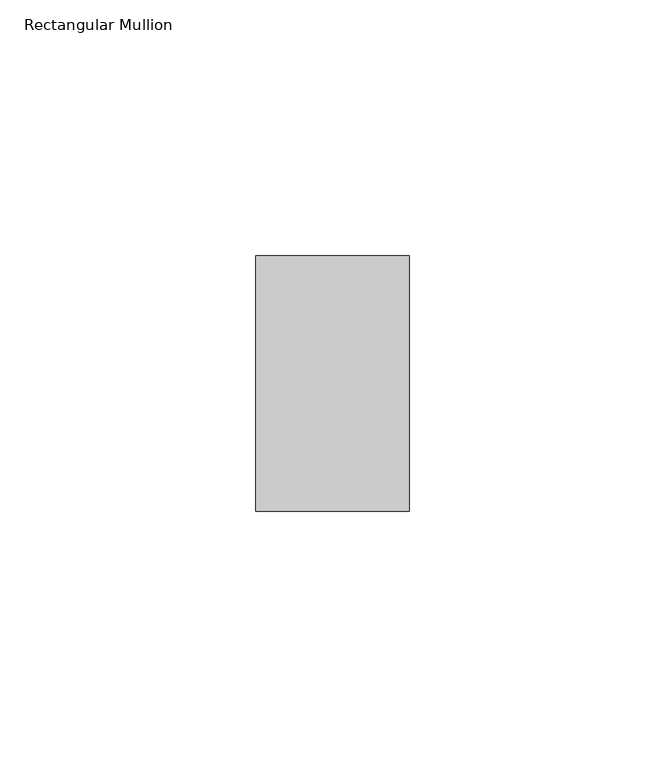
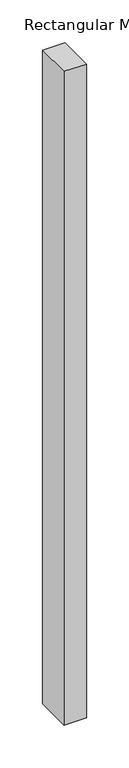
"""IFC4 building model written with IfcOpenShell, lengths in millimetres: member geometry, Rectangular Mullion : ARQ_TV_MULL_50x30mm."""

import ifcopenshell
import ifcopenshell.guid

model = None  # the IFC model being written
_history = None  # IfcOwnerHistory: only IFC2X3 demands one
_inside = {}  # id of a spatial element -> (the spatial element, [elements in it])
_under = {}  # id of a project, library or spatial element -> (it, [spatial elements below it])
_declared = {}  # id of a project -> (the project, [libraries it declares])
_typed = {}  # id of a type object -> (the type object, [elements of that type])
_made_of = {}  # id of a material, layer set ... -> (it, [elements and type objects made of it])


def new_model(schema):
    """Start an empty IFC model of exactly this schema.

    Asked for "IFC4X3", IfcOpenShell would pick the latest addendum, in which some entities
    have other attributes; the version numbers below select the first issue.
    IFC2X3 requires an IfcOwnerHistory on every rooted entity: one is made here for all.
    """
    global model, _history
    if schema == "IFC4X3":
        model = ifcopenshell.file(schema_version=(4, 3, 0, 0))
    else:
        model = ifcopenshell.file(schema=schema)
    _inside.clear()
    _under.clear()
    _declared.clear()
    _typed.clear()
    _made_of.clear()
    _history = None
    if model.schema == "IFC2X3":
        org = make("IfcOrganization", Name="unknown")
        user = make(
            "IfcPersonAndOrganization",
            ThePerson=make("IfcPerson", FamilyName="unknown"),
            TheOrganization=org,
        )
        app = make(
            "IfcApplication",
            ApplicationDeveloper=org,
            Version="unknown",
            ApplicationFullName="unknown",
            ApplicationIdentifier="unknown",
        )
        _history = make(
            "IfcOwnerHistory",
            OwningUser=user,
            OwningApplication=app,
            ChangeAction="ADDED",
            CreationDate=0,
        )
    return model


def make(cls, **values):
    """One entity of the class cls with the attributes given. An attribute that is None is left unset."""
    return model.create_entity(
        cls, **{name: value for name, value in values.items() if value is not None}
    )


def rooted(cls, **values):
    """An entity with a GlobalId (a new one), such as an element, a storey or a relation."""
    return make(cls, GlobalId=ifcopenshell.guid.new(), OwnerHistory=_history, **values)


def si_unit(unit_type, name, prefix=None):
    """IfcSIUnit, for example si_unit("LENGTHUNIT", "METRE", prefix="MILLI")."""
    return make("IfcSIUnit", UnitType=unit_type, Prefix=prefix, Name=name)


def assignment(units):
    """IfcUnitAssignment: the units of a project."""
    return None if units is None else make("IfcUnitAssignment", Units=units)


def point(xyz):
    """IfcCartesianPoint."""
    return None if xyz is None else make("IfcCartesianPoint", Coordinates=xyz)


def direction(xyz):
    """IfcDirection."""
    return None if xyz is None else make("IfcDirection", DirectionRatios=xyz)


def frame(location, z_axis=None, x_axis=None):
    """IfcAxis2Placement3D, a coordinate frame: its origin and axes. An axis left out is left unset."""
    return make(
        "IfcAxis2Placement3D",
        Location=point(location),
        Axis=direction(z_axis),
        RefDirection=direction(x_axis),
    )


def origin():
    """The frame at (0, 0, 0) with its axes left unset."""
    return frame((0.0, 0.0, 0.0))


def place(relative_to, where):
    """IfcLocalPlacement: puts the frame where relative to a parent placement (None: the world)."""
    return make(
        "IfcLocalPlacement", PlacementRelTo=relative_to, RelativePlacement=where
    )


def context(
    kind, dimensions, precision=None, world=None, true_north=None, identifier=None
):
    """IfcGeometricRepresentationContext, for example the 3D "Model" context."""
    return make(
        "IfcGeometricRepresentationContext",
        ContextIdentifier=identifier,
        ContextType=kind,
        CoordinateSpaceDimension=dimensions,
        Precision=precision,
        WorldCoordinateSystem=world,
        TrueNorth=true_north,
    )


def project(units=None, contexts=None):
    """IfcProject with its units and contexts."""
    return rooted(
        "IfcProject",
        Name="project",
        RepresentationContexts=contexts,
        UnitsInContext=assignment(units),
    )


def spatial(cls, under=None, at=None, **own):
    """A site, building, storey or space (cls), placed at a placement, below another one or the project."""
    s = rooted(cls, ObjectPlacement=at, **own)
    if under is not None:
        _under.setdefault(under.id(), (under, []))[1].append(s)
    return s


def polyline(points):
    """IfcPolyline through the points."""
    return make("IfcPolyline", Points=[point(p) for p in points])


def outline(outer, holes=None, kind="AREA"):
    """IfcArbitraryClosedProfileDef: a profile drawn as a closed curve; with holes, ...WithVoids."""
    if holes is None:
        return make("IfcArbitraryClosedProfileDef", ProfileType=kind, OuterCurve=outer)
    return make(
        "IfcArbitraryProfileDefWithVoids",
        ProfileType=kind,
        OuterCurve=outer,
        InnerCurves=holes,
    )


def extrude(swept, where, along, depth):
    """IfcExtrudedAreaSolid: the profile swept, set in the frame where, extruded along a direction by depth."""
    return make(
        "IfcExtrudedAreaSolid",
        SweptArea=swept,
        Position=where,
        ExtrudedDirection=direction(along),
        Depth=depth,
    )


def shape(context_of_items, identifier, shape_type, items):
    """IfcShapeRepresentation: the items that make up one representation, for example the "Body"."""
    return make(
        "IfcShapeRepresentation",
        ContextOfItems=context_of_items,
        RepresentationIdentifier=identifier,
        RepresentationType=shape_type,
        Items=items,
    )


def source(mapping_origin, context_of_items, identifier, shape_type, items):
    """IfcRepresentationMap: a shape defined once, which mapped items show again and again."""
    return make(
        "IfcRepresentationMap",
        MappingOrigin=mapping_origin,
        MappedRepresentation=shape(context_of_items, identifier, shape_type, items),
    )


def transform(
    local_origin,
    x_axis=None,
    y_axis=None,
    z_axis=None,
    scale=None,
    scale2=None,
    scale3=None,
    uniform=True,
):
    """IfcCartesianTransformationOperator3D, or its non-uniform kind. x_axis, y_axis, z_axis: its Axis1, 2, 3."""
    if uniform:
        return make(
            "IfcCartesianTransformationOperator3D",
            Axis1=direction(x_axis),
            Axis2=direction(y_axis),
            LocalOrigin=point(local_origin),
            Scale=scale,
            Axis3=direction(z_axis),
        )
    return make(
        "IfcCartesianTransformationOperator3DnonUniform",
        Axis1=direction(x_axis),
        Axis2=direction(y_axis),
        LocalOrigin=point(local_origin),
        Scale=scale,
        Axis3=direction(z_axis),
        Scale2=scale2,
        Scale3=scale3,
    )


def mapped(mapping_source, mapping_target):
    """IfcMappedItem: shows the shape of a source again, moved by a transform."""
    return make(
        "IfcMappedItem", MappingSource=mapping_source, MappingTarget=mapping_target
    )


def made_of(thing, what):
    """Note that an element or type object is made of a material, layer set ...; save() writes the relation."""
    if what is not None:
        _made_of.setdefault(what.id(), (what, []))[1].append(thing)
    return thing


def element(
    cls,
    number,
    at=None,
    inside=None,
    cuts=None,
    type_object=None,
    material=None,
    context=None,
    identifier="Body",
    shape_type=None,
    held_by="IfcProductDefinitionShape",
    body=None,
    shapes=None,
    **own,
):
    """One element of the class cls, such as IfcWall. Its Tag is "e" and its number.

    at: its placement. inside: the storey or other place that contains it. cuts: it is an
    opening in that element (IfcRelVoidsElement). A single representation is given by context,
    identifier, shape_type and body (its items); several are given by shapes. held_by: the class
    of the entity that holds the representations. save() writes the other relations.
    """
    e = rooted(cls, Tag="e%d" % number, ObjectPlacement=at, **own)
    if body is not None:
        shapes = [shape(context, identifier, shape_type, body)]
    if shapes is not None:
        e.Representation = make(held_by, Representations=shapes)
    if inside is not None:
        _inside.setdefault(inside.id(), (inside, []))[1].append(e)
    if cuts is not None:
        rooted(
            "IfcRelVoidsElement", RelatingBuildingElement=cuts, RelatedOpeningElement=e
        )
    if type_object is not None:
        _typed.setdefault(type_object.id(), (type_object, []))[1].append(e)
    return made_of(e, material)


def aggregate(whole, parts):
    """IfcRelAggregates: a whole, such as a stair, and the parts it consists of."""
    return rooted("IfcRelAggregates", RelatingObject=whole, RelatedObjects=parts)


def save(model, path):
    """Write the relations noted so far, then the file.

    IfcRelAggregates (storeys below a building ...), IfcRelContainedInSpatialStructure (elements
    in a storey), IfcRelDefinesByType, IfcRelAssociatesMaterial and IfcRelDeclares: one each for
    every whole, place, type object, material and project.
    """
    for whole, parts in _under.values():
        aggregate(whole, parts)
    for where, things in _inside.values():
        rooted(
            "IfcRelContainedInSpatialStructure",
            RelatedElements=things,
            RelatingStructure=where,
        )
    for kind, things in _typed.values():
        rooted("IfcRelDefinesByType", RelatedObjects=things, RelatingType=kind)
    for what, things in _made_of.values():
        rooted("IfcRelAssociatesMaterial", RelatedObjects=things, RelatingMaterial=what)
    for by, libraries in _declared.values():
        rooted("IfcRelDeclares", RelatingContext=by, RelatedDefinitions=libraries)
    model.write(path)


def rectangular_mullion_1f0e14fc(model_context):
    return source(origin(), model_context, "Body", "SweptSolid", [
        extrude(outline(polyline([(0.0, 25.0), (0.0, -25.0), (-30.0, -25.0), (-30.0, 25.0), (0.0, 25.0)])), frame((0.0, 0.0, -931.5170125), z_axis=(0.0, 0.0, 1.0), x_axis=(1.0, 0.0, 0.0)), (0.0, 0.0, 1.0), 931.5170125),
    ])


if __name__ == "__main__":
    model = new_model("IFC4")
    model_context = context("Model", 3, world=origin())
    ifc_project = project(units=[si_unit("LENGTHUNIT", "METRE", prefix="MILLI")], contexts=[model_context])
    site = spatial("IfcSite", under=ifc_project)
    building = spatial("IfcBuilding", under=site)
    placement = place(None, origin())
    rectangular_mullion_shape = rectangular_mullion_1f0e14fc(model_context)
    element("IfcMember", 1, ObjectType="Rectangular Mullion : ARQ_TV_MULL_50x30mm", at=placement, inside=building, context=model_context, shape_type="MappedRepresentation", body=[
        mapped(rectangular_mullion_shape, transform((0.0, 0.0, 0.0), x_axis=(1.0, 0.0, 0.0), y_axis=(0.0, 1.0, 0.0), z_axis=(0.0, 0.0, 1.0))),
    ])
    save(model, "model.ifc")
